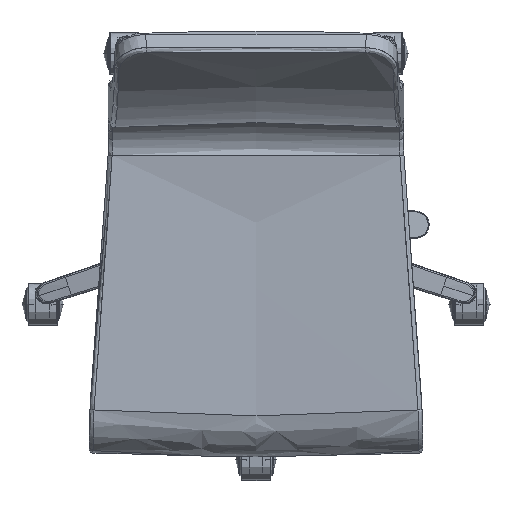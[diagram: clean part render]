
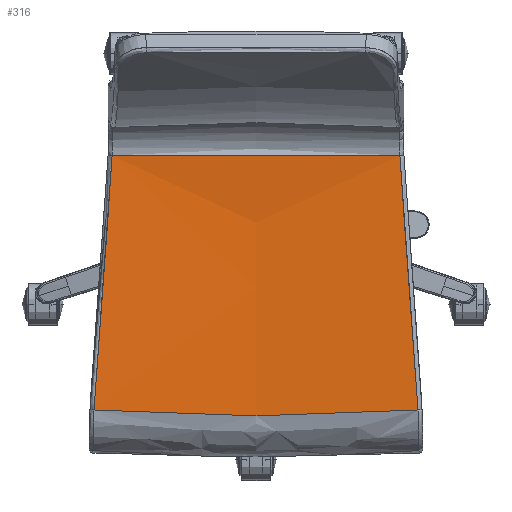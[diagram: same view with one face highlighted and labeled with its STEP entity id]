
A CAD part, top view. The second image highlights one B-rep face of the part: STEP entity #316.
In plain terms, the highlighted free-form (B-spline) face has degree [3, 3] with [10, 5] control points.
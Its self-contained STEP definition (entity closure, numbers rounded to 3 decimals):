
#23=B_SPLINE_SURFACE_WITH_KNOTS('',3,3,((#21119,#21120,#21121,#21122,#21123),
(#21124,#21125,#21126,#21127,#21128),(#21129,#21130,#21131,#21132,#21133),
(#21134,#21135,#21136,#21137,#21138),(#21139,#21140,#21141,#21142,#21143),
(#21144,#21145,#21146,#21147,#21148),(#21149,#21150,#21151,#21152,#21153),
(#21154,#21155,#21156,#21157,#21158),(#21159,#21160,#21161,#21162,#21163),
(#21164,#21165,#21166,#21167,#21168)),.UNSPECIFIED.,.F.,.F.,.F.,(4,3,1,
1,1,4),(4,1,4),(0.,17.753,104.051,190.349,276.647,
362.945),(0.,220.877,441.754),.UNSPECIFIED.);
#316=ADVANCED_FACE('',(#1185),#23,.T.);
#1185=FACE_OUTER_BOUND('',#2064,.T.);
#2064=EDGE_LOOP('',(#3478,#3479,#3480,#3481));
#3478=ORIENTED_EDGE('',*,*,#7031,.F.);
#3479=ORIENTED_EDGE('',*,*,#7120,.T.);
#3480=ORIENTED_EDGE('',*,*,#7046,.T.);
#3481=ORIENTED_EDGE('',*,*,#7169,.T.);
#7031=EDGE_CURVE('',#10850,#10851,#8800,.T.);
#7046=EDGE_CURVE('',#10854,#10855,#8815,.T.);
#7120=EDGE_CURVE('',#10850,#10854,#9656,.T.);
#7169=EDGE_CURVE('',#10855,#10851,#9697,.T.);
#8800=B_SPLINE_CURVE_WITH_KNOTS('',3,(#23828,#23829,#23830,#23831,#23832),
 .UNSPECIFIED.,.F.,.F.,(4,1,4),(0.015,0.5,0.985),
 .UNSPECIFIED.);
#8815=B_SPLINE_CURVE_WITH_KNOTS('',3,(#24015,#24016,#24017,#24018,#24019),
 .UNSPECIFIED.,.F.,.F.,(4,1,4),(-0.931,-0.5,-0.069),
 .UNSPECIFIED.);
#9656=(
BOUNDED_CURVE()
B_SPLINE_CURVE(3,(#24968,#24969,#24970,#24971,#24972,#24973,#24974,#24975,
#24976,#24977,#24978,#24979,#24980,#24981,#24982,#24983),.UNSPECIFIED.,
 .F.,.F.)
B_SPLINE_CURVE_WITH_KNOTS((4,3,3,3,3,4),(0.,0.084,
0.168,0.252,0.294,0.336),
 .UNSPECIFIED.)
CURVE()
GEOMETRIC_REPRESENTATION_ITEM()
RATIONAL_B_SPLINE_CURVE((1.,1.,1.,1.,
1.,1.,1.,1.,
1.,1.,1.,1.,
1.,1.,1.,1.))
REPRESENTATION_ITEM('')
);
#9697=(
BOUNDED_CURVE()
B_SPLINE_CURVE(3,(#25826,#25827,#25828,#25829,#25830,#25831,#25832,#25833,
#25834,#25835,#25836,#25837,#25838,#25839,#25840,#25841),.UNSPECIFIED.,
 .F.,.F.)
B_SPLINE_CURVE_WITH_KNOTS((4,3,3,3,3,4),(0.,0.042,
0.084,0.168,0.252,0.337),
 .UNSPECIFIED.)
CURVE()
GEOMETRIC_REPRESENTATION_ITEM()
RATIONAL_B_SPLINE_CURVE((1.,1.,1.,1.,
1.,1.,1.,1.,
1.,1.,1.,1.,
1.,1.,1.,1.))
REPRESENTATION_ITEM('')
);
#10850=VERTEX_POINT('',#23745);
#10851=VERTEX_POINT('',#23746);
#10854=VERTEX_POINT('',#23749);
#10855=VERTEX_POINT('',#23750);
#21119=CARTESIAN_POINT('',(-220.,-145.416,447.603));
#21120=CARTESIAN_POINT('',(-146.667,-146.023,442.486));
#21121=CARTESIAN_POINT('',(0.,-147.237,432.251));
#21122=CARTESIAN_POINT('',(146.667,-146.023,442.486));
#21123=CARTESIAN_POINT('',(220.,-145.416,447.603));
#21124=CARTESIAN_POINT('',(-220.,-151.092,447.802));
#21125=CARTESIAN_POINT('',(-146.667,-151.862,442.691));
#21126=CARTESIAN_POINT('',(0.,-153.403,432.467));
#21127=CARTESIAN_POINT('',(146.667,-151.862,442.691));
#21128=CARTESIAN_POINT('',(220.,-151.092,447.802));
#21129=CARTESIAN_POINT('',(-220.,-156.768,448.001));
#21130=CARTESIAN_POINT('',(-146.667,-157.702,442.895));
#21131=CARTESIAN_POINT('',(0.,-159.569,432.684));
#21132=CARTESIAN_POINT('',(146.667,-157.702,442.895));
#21133=CARTESIAN_POINT('',(220.,-156.768,448.001));
#21134=CARTESIAN_POINT('',(-220.,-162.444,448.2));
#21135=CARTESIAN_POINT('',(-146.667,-163.541,443.1));
#21136=CARTESIAN_POINT('',(0.,-165.735,432.9));
#21137=CARTESIAN_POINT('',(146.667,-163.541,443.1));
#21138=CARTESIAN_POINT('',(220.,-162.444,448.2));
#21139=CARTESIAN_POINT('',(-220.,-190.034,449.168));
#21140=CARTESIAN_POINT('',(-146.667,-191.926,444.096));
#21141=CARTESIAN_POINT('',(0.,-195.71,433.951));
#21142=CARTESIAN_POINT('',(146.667,-191.926,444.096));
#21143=CARTESIAN_POINT('',(220.,-190.034,449.168));
#21144=CARTESIAN_POINT('',(-220.,-245.461,451.111));
#21145=CARTESIAN_POINT('',(-146.667,-248.558,446.081));
#21146=CARTESIAN_POINT('',(0.,-254.751,436.021));
#21147=CARTESIAN_POINT('',(146.667,-248.558,446.081));
#21148=CARTESIAN_POINT('',(220.,-245.461,451.111));
#21149=CARTESIAN_POINT('',(-220.,-329.201,454.048));
#21150=CARTESIAN_POINT('',(-146.667,-333.205,449.05));
#21151=CARTESIAN_POINT('',(0.,-341.213,439.053));
#21152=CARTESIAN_POINT('',(146.667,-333.205,449.05));
#21153=CARTESIAN_POINT('',(220.,-329.201,454.048));
#21154=CARTESIAN_POINT('',(-220.,-413.391,457.));
#21155=CARTESIAN_POINT('',(-146.667,-417.64,452.01));
#21156=CARTESIAN_POINT('',(0.,-426.138,442.031));
#21157=CARTESIAN_POINT('',(146.667,-417.64,452.01));
#21158=CARTESIAN_POINT('',(220.,-413.391,457.));
#21159=CARTESIAN_POINT('',(-220.,-469.71,458.975));
#21160=CARTESIAN_POINT('',(-146.667,-473.832,453.981));
#21161=CARTESIAN_POINT('',(0.,-482.076,443.993));
#21162=CARTESIAN_POINT('',(146.667,-473.832,453.981));
#21163=CARTESIAN_POINT('',(220.,-469.71,458.975));
#21164=CARTESIAN_POINT('',(-220.,-497.89,459.963));
#21165=CARTESIAN_POINT('',(-146.667,-501.913,454.966));
#21166=CARTESIAN_POINT('',(0.,-509.959,444.97));
#21167=CARTESIAN_POINT('',(146.667,-501.913,454.966));
#21168=CARTESIAN_POINT('',(220.,-497.89,459.963));
#23745=CARTESIAN_POINT('',(213.382,-498.253,459.512));
#23746=CARTESIAN_POINT('',(-213.382,-498.253,459.512));
#23749=CARTESIAN_POINT('',(189.59,-162.896,446.099));
#23750=CARTESIAN_POINT('',(-189.59,-162.896,446.099));
#23828=CARTESIAN_POINT('',(213.382,-498.253,459.512));
#23829=CARTESIAN_POINT('',(142.254,-502.151,454.669));
#23830=CARTESIAN_POINT('',(0.,-509.72,445.266));
#23831=CARTESIAN_POINT('',(-142.254,-502.151,454.669));
#23832=CARTESIAN_POINT('',(-213.382,-498.253,459.512));
#24015=CARTESIAN_POINT('',(189.59,-162.896,446.099));
#24016=CARTESIAN_POINT('',(126.394,-163.823,441.788));
#24017=CARTESIAN_POINT('',(0.,-165.453,434.212));
#24018=CARTESIAN_POINT('',(-126.394,-163.823,441.788));
#24019=CARTESIAN_POINT('',(-189.59,-162.896,446.099));
#24968=CARTESIAN_POINT('',(213.382,-498.253,459.512));
#24969=CARTESIAN_POINT('',(212.177,-470.248,458.446));
#24970=CARTESIAN_POINT('',(210.194,-442.298,457.327));
#24971=CARTESIAN_POINT('',(207.856,-414.373,456.184));
#24972=CARTESIAN_POINT('',(205.519,-386.448,455.042));
#24973=CARTESIAN_POINT('',(202.83,-358.552,453.876));
#24974=CARTESIAN_POINT('',(200.249,-330.648,452.718));
#24975=CARTESIAN_POINT('',(197.668,-302.744,451.561));
#24976=CARTESIAN_POINT('',(195.2,-274.829,450.411));
#24977=CARTESIAN_POINT('',(193.285,-246.873,449.298));
#24978=CARTESIAN_POINT('',(192.328,-232.895,448.742));
#24979=CARTESIAN_POINT('',(191.509,-218.903,448.195));
#24980=CARTESIAN_POINT('',(190.877,-204.905,447.661));
#24981=CARTESIAN_POINT('',(190.246,-190.906,447.126));
#24982=CARTESIAN_POINT('',(189.803,-176.904,446.605));
#24983=CARTESIAN_POINT('',(189.59,-162.896,446.099));
#25826=CARTESIAN_POINT('',(-189.59,-162.896,446.099));
#25827=CARTESIAN_POINT('',(-189.803,-176.904,446.605));
#25828=CARTESIAN_POINT('',(-190.246,-190.906,447.126));
#25829=CARTESIAN_POINT('',(-190.877,-204.905,447.661));
#25830=CARTESIAN_POINT('',(-191.509,-218.903,448.195));
#25831=CARTESIAN_POINT('',(-192.328,-232.895,448.742));
#25832=CARTESIAN_POINT('',(-193.285,-246.873,449.298));
#25833=CARTESIAN_POINT('',(-195.2,-274.829,450.411));
#25834=CARTESIAN_POINT('',(-197.668,-302.744,451.561));
#25835=CARTESIAN_POINT('',(-200.249,-330.648,452.718));
#25836=CARTESIAN_POINT('',(-202.83,-358.552,453.876));
#25837=CARTESIAN_POINT('',(-205.519,-386.448,455.042));
#25838=CARTESIAN_POINT('',(-207.856,-414.373,456.184));
#25839=CARTESIAN_POINT('',(-210.194,-442.298,457.327));
#25840=CARTESIAN_POINT('',(-212.177,-470.248,458.446));
#25841=CARTESIAN_POINT('',(-213.382,-498.253,459.512));
